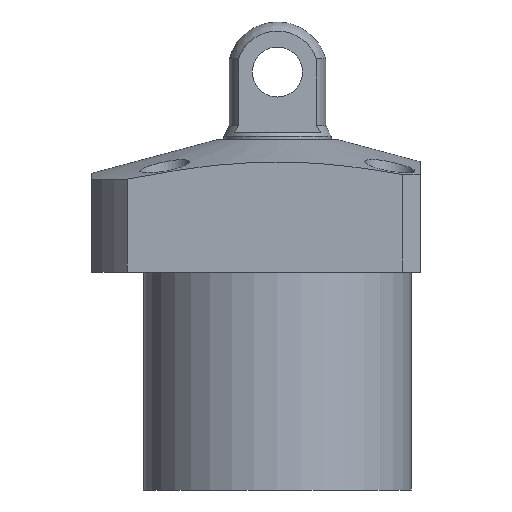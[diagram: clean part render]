
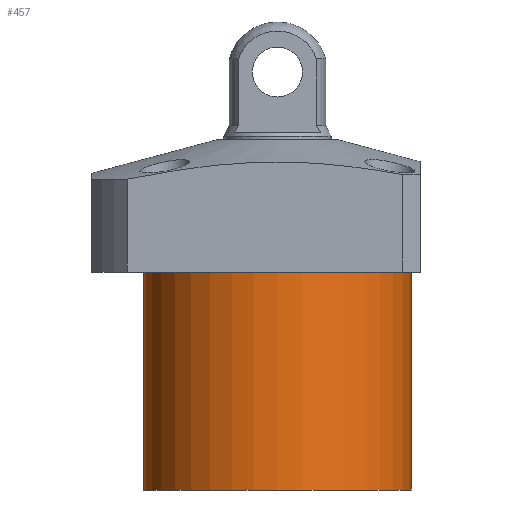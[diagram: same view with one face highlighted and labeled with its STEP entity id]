
A CAD part, front view. The second image highlights one B-rep face of the part: STEP entity #457.
In plain terms, the highlighted cylindrical face has radius 37.5 mm (diameter 75 mm), a partial arc.
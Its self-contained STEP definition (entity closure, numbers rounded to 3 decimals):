
#15 = EDGE_CURVE ( 'NONE', #1149, #1746, #970, .T. ) ;
#165 = CARTESIAN_POINT ( 'NONE',  ( 37.5, 0., -79.5 ) ) ;
#285 = CARTESIAN_POINT ( 'NONE',  ( 0., 0., -79.5 ) ) ;
#317 = CARTESIAN_POINT ( 'NONE',  ( 37.5, 0., -79.5 ) ) ;
#332 = DIRECTION ( 'NONE',  ( 0., 0., 1. ) ) ;
#361 = DIRECTION ( 'NONE',  ( 0., 0., 1. ) ) ;
#457 = ADVANCED_FACE ( 'NONE', ( #1000 ), #535, .T. ) ;
#507 = DIRECTION ( 'NONE',  ( 0., 0., -1. ) ) ;
#520 = VERTEX_POINT ( 'NONE', #1790 ) ;
#532 = LINE ( 'NONE', #1490, #2396 ) ;
#535 = CYLINDRICAL_SURFACE ( 'NONE', #1386, 37.5 ) ;
#554 = EDGE_CURVE ( 'NONE', #520, #703, #1085, .T. ) ;
#583 = DIRECTION ( 'NONE',  ( 0., 0., -1. ) ) ;
#654 = ORIENTED_EDGE ( 'NONE', *, *, #1864, .F. ) ;
#655 = EDGE_CURVE ( 'NONE', #1149, #520, #2000, .T. ) ;
#703 = VERTEX_POINT ( 'NONE', #2041 ) ;
#750 = CARTESIAN_POINT ( 'NONE',  ( -37.5, 0., -79.5 ) ) ;
#770 = ORIENTED_EDGE ( 'NONE', *, *, #15, .F. ) ;
#970 = CIRCLE ( 'NONE', #1413, 37.5 ) ;
#1000 = FACE_OUTER_BOUND ( 'NONE', #1194, .T. ) ;
#1085 = CIRCLE ( 'NONE', #2302, 37.5 ) ;
#1149 = VERTEX_POINT ( 'NONE', #165 ) ;
#1159 = CARTESIAN_POINT ( 'NONE',  ( 0., 0., -79.5 ) ) ;
#1194 = EDGE_LOOP ( 'NONE', ( #654, #770, #2062, #1649 ) ) ;
#1386 = AXIS2_PLACEMENT_3D ( 'NONE', #285, #2161, #2349 ) ;
#1413 = AXIS2_PLACEMENT_3D ( 'NONE', #1159, #583, #2070 ) ;
#1490 = CARTESIAN_POINT ( 'NONE',  ( -37.5, 0., -79.5 ) ) ;
#1505 = VECTOR ( 'NONE', #332, 1000. ) ;
#1649 = ORIENTED_EDGE ( 'NONE', *, *, #554, .T. ) ;
#1746 = VERTEX_POINT ( 'NONE', #750 ) ;
#1790 = CARTESIAN_POINT ( 'NONE',  ( 37.5, 0., -18.5 ) ) ;
#1824 = DIRECTION ( 'NONE',  ( 1., 0., 0. ) ) ;
#1864 = EDGE_CURVE ( 'NONE', #1746, #703, #532, .T. ) ;
#2000 = LINE ( 'NONE', #317, #1505 ) ;
#2035 = CARTESIAN_POINT ( 'NONE',  ( 0., 0., -18.5 ) ) ;
#2041 = CARTESIAN_POINT ( 'NONE',  ( -37.5, 0., -18.5 ) ) ;
#2062 = ORIENTED_EDGE ( 'NONE', *, *, #655, .T. ) ;
#2070 = DIRECTION ( 'NONE',  ( -1., 0., 0. ) ) ;
#2161 = DIRECTION ( 'NONE',  ( 0., 0., 1. ) ) ;
#2302 = AXIS2_PLACEMENT_3D ( 'NONE', #2035, #507, #1824 ) ;
#2349 = DIRECTION ( 'NONE',  ( 1., 0., 0. ) ) ;
#2396 = VECTOR ( 'NONE', #361, 1000. ) ;
